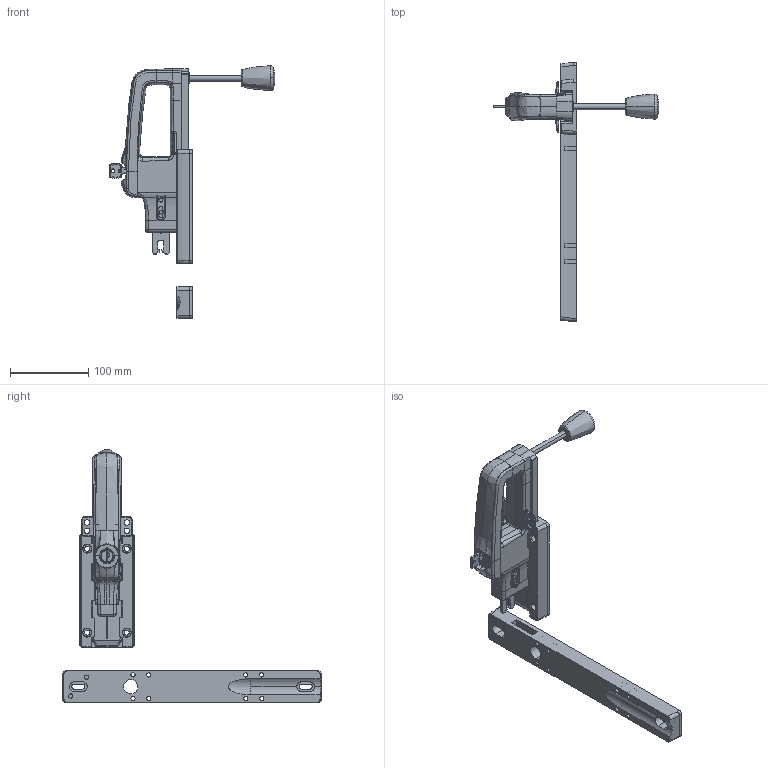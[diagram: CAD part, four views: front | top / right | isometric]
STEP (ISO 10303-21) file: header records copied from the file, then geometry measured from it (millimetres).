
FILE_DESCRIPTION (( 'STEP AP214' ), '1' );
FILE_NAME ('ZF_STEP_AN_YxEx9P.step', '2024-05-09T11:49:59', ( '' ), ( '' ), 'SwSTEP 2.0', 'SolidWorks 2023', '' );
FILE_SCHEMA (( 'AUTOMOTIVE_DESIGN' ));
Length unit declared in the file: millimetre
Products named in the file (13): 21110_21110; AN-Y_Maniglia FY con foro_3dweb_senza pulsante; 21040_21179; 33812_33812; 33805_3dweb_33805; 8497_8498; 33804_3dweb_33804; AN-Y_Maniglia FY con foro_3dweb_con leva e senza pulsante; 32100_32100; Dado M8_M 8; ZF_STEP_AN_YxEx9P; RondellaØ8; 32041_32041
Assembly tree (13 placements, depth 3):
  ZF_STEP_AN_YxEx9P
    AN-Y_Maniglia FY con foro_3dweb_con leva e senza pulsante
      8497_8498
      33812_33812  x2
      32100_32100
      RondellaØ8
      Dado M8_M 8
      32041_32041
      AN-Y_Maniglia FY con foro_3dweb_senza pulsante
    21040_21179
    21110_21110
    33804_3dweb_33804
    33805_3dweb_33805
Bounding box: 211.46 x 330 x 322.49 mm (x, y, z)
Volume: 713443.3 mm3; surface area: 189339.9 mm2
Topology: 14 solids, 18 shells, 1415 faces, 3773 edges, 2409 vertices
Faces by surface type: plane 473, bspline 436, cylinder 413, cone 48, torus 34, sphere 11
Entity records: 76033 total; most frequent: CARTESIAN_POINT 44306, ORIENTED_EDGE 7470, DIRECTION 5142, EDGE_CURVE 3735, VERTEX_POINT 2395, AXIS2_PLACEMENT_3D 1779, LINE 1584, VECTOR 1584
